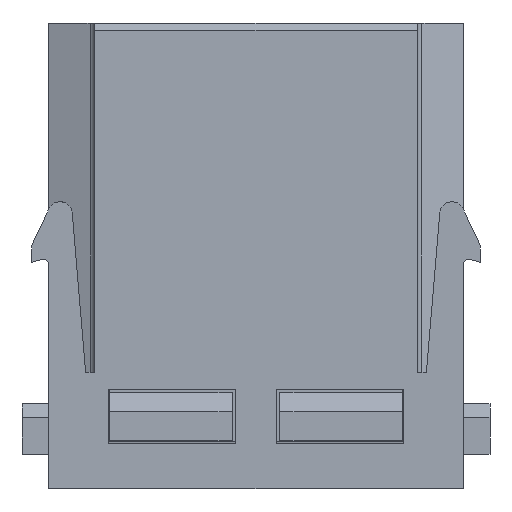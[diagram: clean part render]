
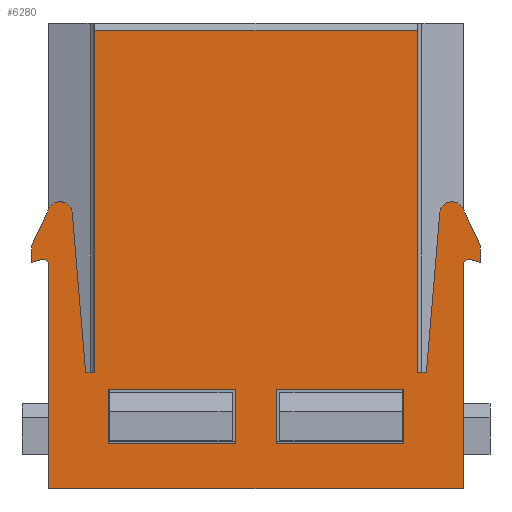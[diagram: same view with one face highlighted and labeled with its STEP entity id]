
A CAD part, left-side view. The second image highlights one B-rep face of the part: STEP entity #6280.
In plain terms, the highlighted planar face has unit normal (-1, 0, 0).
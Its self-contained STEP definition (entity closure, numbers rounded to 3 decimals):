
#6280=ADVANCED_FACE('',(#10816,#10817,#10818),#7026,.T.);
#7026=PLANE('',#22206);
#7735=LINE('',#28352,#9179);
#7739=LINE('',#28361,#9183);
#7742=LINE('',#28367,#9186);
#7751=LINE('',#28413,#9195);
#7756=LINE('',#28426,#9200);
#8098=LINE('',#29683,#9542);
#8102=LINE('',#29692,#9546);
#8105=LINE('',#29698,#9549);
#8110=LINE('',#29705,#9554);
#8112=LINE('',#29710,#9556);
#8116=LINE('',#29719,#9560);
#8123=LINE('',#29731,#9567);
#8126=LINE('',#29736,#9570);
#8160=LINE('',#29800,#9604);
#8168=LINE('',#29823,#9612);
#8171=LINE('',#29829,#9615);
#8174=LINE('',#29835,#9618);
#8177=LINE('',#29859,#9621);
#8179=LINE('',#29863,#9623);
#8180=LINE('',#29866,#9624);
#8181=LINE('',#29868,#9625);
#8182=LINE('',#29871,#9626);
#8183=LINE('',#29872,#9627);
#8184=LINE('',#29873,#9628);
#9179=VECTOR('',#23340,1.);
#9183=VECTOR('',#23346,1.);
#9186=VECTOR('',#23351,1.);
#9195=VECTOR('',#23372,1.);
#9200=VECTOR('',#23381,1.);
#9542=VECTOR('',#24759,1.);
#9546=VECTOR('',#24765,1.);
#9549=VECTOR('',#24770,1.);
#9554=VECTOR('',#24777,1.);
#9556=VECTOR('',#24781,1.);
#9560=VECTOR('',#24787,1.);
#9567=VECTOR('',#24798,1.);
#9570=VECTOR('',#24803,1.);
#9604=VECTOR('',#24867,1.);
#9612=VECTOR('',#24879,1.);
#9615=VECTOR('',#24884,1.);
#9618=VECTOR('',#24889,1.);
#9621=VECTOR('',#24902,1.);
#9623=VECTOR('',#24906,1.);
#9624=VECTOR('',#24907,1.);
#9625=VECTOR('',#24908,1.);
#9626=VECTOR('',#24911,1.);
#9627=VECTOR('',#24912,1.);
#9628=VECTOR('',#24913,1.);
#10816=FACE_BOUND('',#11503,.T.);
#10817=FACE_BOUND('',#11504,.T.);
#10818=FACE_BOUND('',#11505,.T.);
#11503=EDGE_LOOP('',(#13795,#13796,#13797,#13798));
#11504=EDGE_LOOP('',(#13799,#13800,#13801,#13802));
#11505=EDGE_LOOP('',(#13803,#13804,#13805,#13806,#13807,#13808,#13809,#13810,
#13811,#13812,#13813,#13814,#13815,#13816,#13817,#13818,#13819,#13820,#13821,
#13822));
#13795=ORIENTED_EDGE('',*,*,#18871,.T.);
#13796=ORIENTED_EDGE('',*,*,#18874,.T.);
#13797=ORIENTED_EDGE('',*,*,#18860,.T.);
#13798=ORIENTED_EDGE('',*,*,#18864,.T.);
#13799=ORIENTED_EDGE('',*,*,#18850,.T.);
#13800=ORIENTED_EDGE('',*,*,#18853,.T.);
#13801=ORIENTED_EDGE('',*,*,#18858,.T.);
#13802=ORIENTED_EDGE('',*,*,#18846,.T.);
#13803=ORIENTED_EDGE('',*,*,#18933,.T.);
#13804=ORIENTED_EDGE('',*,*,#18934,.T.);
#13805=ORIENTED_EDGE('',*,*,#18935,.T.);
#13806=ORIENTED_EDGE('',*,*,#18931,.T.);
#13807=ORIENTED_EDGE('',*,*,#18925,.T.);
#13808=ORIENTED_EDGE('',*,*,#18923,.T.);
#13809=ORIENTED_EDGE('',*,*,#18920,.T.);
#13810=ORIENTED_EDGE('',*,*,#18917,.T.);
#13811=ORIENTED_EDGE('',*,*,#18936,.T.);
#13812=ORIENTED_EDGE('',*,*,#18937,.T.);
#13813=ORIENTED_EDGE('',*,*,#18908,.F.);
#13814=ORIENTED_EDGE('',*,*,#18938,.F.);
#13815=ORIENTED_EDGE('',*,*,#18286,.T.);
#13816=ORIENTED_EDGE('',*,*,#18253,.T.);
#13817=ORIENTED_EDGE('',*,*,#18257,.T.);
#13818=ORIENTED_EDGE('',*,*,#18260,.T.);
#13819=ORIENTED_EDGE('',*,*,#18270,.T.);
#13820=ORIENTED_EDGE('',*,*,#18275,.T.);
#13821=ORIENTED_EDGE('',*,*,#18281,.T.);
#13822=ORIENTED_EDGE('',*,*,#18939,.T.);
#16769=VERTEX_POINT('',#28353);
#16770=VERTEX_POINT('',#28354);
#16773=VERTEX_POINT('',#28362);
#16775=VERTEX_POINT('',#28368);
#16783=VERTEX_POINT('',#28400);
#16785=VERTEX_POINT('',#28412);
#16791=VERTEX_POINT('',#28425);
#16793=VERTEX_POINT('',#28439);
#17183=VERTEX_POINT('',#29681);
#17185=VERTEX_POINT('',#29684);
#17187=VERTEX_POINT('',#29690);
#17190=VERTEX_POINT('',#29697);
#17193=VERTEX_POINT('',#29709);
#17194=VERTEX_POINT('',#29711);
#17196=VERTEX_POINT('',#29717);
#17200=VERTEX_POINT('',#29730);
#17216=VERTEX_POINT('',#29799);
#17217=VERTEX_POINT('',#29801);
#17223=VERTEX_POINT('',#29818);
#17225=VERTEX_POINT('',#29822);
#17227=VERTEX_POINT('',#29827);
#17229=VERTEX_POINT('',#29833);
#17231=VERTEX_POINT('',#29840);
#17234=VERTEX_POINT('',#29860);
#17235=VERTEX_POINT('',#29864);
#17236=VERTEX_POINT('',#29865);
#17237=VERTEX_POINT('',#29867);
#17238=VERTEX_POINT('',#29870);
#18253=EDGE_CURVE('',#16769,#16770,#7735,.T.);
#18257=EDGE_CURVE('',#16770,#16773,#7739,.T.);
#18260=EDGE_CURVE('',#16773,#16775,#7742,.T.);
#18270=EDGE_CURVE('',#16775,#16783,#20215,.T.);
#18275=EDGE_CURVE('',#16783,#16785,#7751,.T.);
#18281=EDGE_CURVE('',#16785,#16791,#7756,.T.);
#18286=EDGE_CURVE('',#16793,#16769,#20219,.T.);
#18846=EDGE_CURVE('',#17185,#17183,#8098,.T.);
#18850=EDGE_CURVE('',#17183,#17187,#8102,.T.);
#18853=EDGE_CURVE('',#17187,#17190,#8105,.T.);
#18858=EDGE_CURVE('',#17190,#17185,#8110,.T.);
#18860=EDGE_CURVE('',#17194,#17193,#8112,.T.);
#18864=EDGE_CURVE('',#17193,#17196,#8116,.T.);
#18871=EDGE_CURVE('',#17196,#17200,#8123,.T.);
#18874=EDGE_CURVE('',#17200,#17194,#8126,.T.);
#18908=EDGE_CURVE('',#17216,#17217,#8160,.T.);
#18917=EDGE_CURVE('',#17223,#17225,#8168,.T.);
#18920=EDGE_CURVE('',#17227,#17223,#8171,.T.);
#18923=EDGE_CURVE('',#17229,#17227,#8174,.T.);
#18925=EDGE_CURVE('',#17231,#17229,#20441,.T.);
#18931=EDGE_CURVE('',#17234,#17231,#8177,.T.);
#18933=EDGE_CURVE('',#17235,#17236,#8179,.T.);
#18934=EDGE_CURVE('',#17236,#17237,#8180,.T.);
#18935=EDGE_CURVE('',#17237,#17234,#8181,.T.);
#18936=EDGE_CURVE('',#17225,#17238,#20442,.T.);
#18937=EDGE_CURVE('',#17238,#17217,#8182,.T.);
#18938=EDGE_CURVE('',#16793,#17216,#8183,.T.);
#18939=EDGE_CURVE('',#16791,#17235,#8184,.T.);
#20215=CIRCLE('',#21648,0.9);
#20219=CIRCLE('',#21658,0.4);
#20441=CIRCLE('',#22201,0.9);
#20442=CIRCLE('',#22205,0.4);
#21648=AXIS2_PLACEMENT_3D('',#28401,#23362,#23363);
#21658=AXIS2_PLACEMENT_3D('',#28438,#23392,#23393);
#22201=AXIS2_PLACEMENT_3D('',#29839,#24894,#24895);
#22205=AXIS2_PLACEMENT_3D('',#29869,#24909,#24910);
#22206=AXIS2_PLACEMENT_3D('',#29874,#24914,#24915);
#23340=DIRECTION('',(0.,-0.966,-0.259));
#23346=DIRECTION('',(0.,0.,1.));
#23351=DIRECTION('',(0.,0.423,0.906));
#23362=DIRECTION('',(-1.,0.,0.));
#23363=DIRECTION('',(0.,-0.906,0.423));
#23372=DIRECTION('',(0.,0.084,-0.996));
#23381=DIRECTION('',(0.,1.,0.));
#23392=DIRECTION('',(1.,0.,0.));
#23393=DIRECTION('',(0.,1.,0.));
#24759=DIRECTION('',(0.,-1.,0.));
#24765=DIRECTION('',(0.,0.,-1.));
#24770=DIRECTION('',(0.,1.,0.));
#24777=DIRECTION('',(0.,0.,1.));
#24781=DIRECTION('',(0.,1.,0.));
#24787=DIRECTION('',(0.,0.,1.));
#24798=DIRECTION('',(0.,-1.,0.));
#24803=DIRECTION('',(0.,0.,-1.));
#24867=DIRECTION('',(0.,1.,0.));
#24879=DIRECTION('',(0.,-0.966,0.259));
#24884=DIRECTION('',(0.,0.,-1.));
#24889=DIRECTION('',(0.,0.423,-0.906));
#24894=DIRECTION('',(-1.,0.,0.));
#24895=DIRECTION('',(0.,-0.996,0.084));
#24902=DIRECTION('',(0.,0.084,0.996));
#24906=DIRECTION('',(0.,1.,0.));
#24907=DIRECTION('',(0.,0.,-1.));
#24908=DIRECTION('',(0.,1.,0.));
#24909=DIRECTION('',(1.,0.,0.));
#24910=DIRECTION('',(0.,0.259,0.966));
#24911=DIRECTION('',(0.,0.,-1.));
#24912=DIRECTION('',(0.,0.,-1.));
#24913=DIRECTION('',(0.,0.,1.));
#24914=DIRECTION('',(-1.,0.,0.));
#24915=DIRECTION('',(0.,-1.,0.));
#28352=CARTESIAN_POINT('',(-7.3,-15.654,14.236));
#28353=CARTESIAN_POINT('',(-7.3,-15.654,14.236));
#28354=CARTESIAN_POINT('',(-7.3,-16.4,14.036));
#28361=CARTESIAN_POINT('',(-7.3,-16.4,14.036));
#28362=CARTESIAN_POINT('',(-7.3,-16.4,15.236));
#28367=CARTESIAN_POINT('',(-7.3,-16.4,15.236));
#28368=CARTESIAN_POINT('',(-7.3,-15.139,17.94));
#28400=CARTESIAN_POINT('',(-7.3,-13.427,17.634));
#28401=CARTESIAN_POINT('',(-7.3,-14.324,17.559));
#28412=CARTESIAN_POINT('',(-7.3,-12.45,6.));
#28413=CARTESIAN_POINT('',(-7.3,-13.427,17.634));
#28425=CARTESIAN_POINT('',(-7.3,-11.8,6.));
#28426=CARTESIAN_POINT('',(-7.3,-12.45,6.));
#28438=CARTESIAN_POINT('',(-7.3,-15.55,13.85));
#28439=CARTESIAN_POINT('',(-7.3,-15.15,13.85));
#29681=CARTESIAN_POINT('',(-7.3,1.5,4.75));
#29683=CARTESIAN_POINT('',(-7.3,10.8,4.75));
#29684=CARTESIAN_POINT('',(-7.3,10.8,4.75));
#29690=CARTESIAN_POINT('',(-7.3,1.5,0.8));
#29692=CARTESIAN_POINT('',(-7.3,1.5,4.75));
#29697=CARTESIAN_POINT('',(-7.3,10.8,0.8));
#29698=CARTESIAN_POINT('',(-7.3,1.5,0.8));
#29705=CARTESIAN_POINT('',(-7.3,10.8,0.8));
#29709=CARTESIAN_POINT('',(-7.3,-1.5,0.8));
#29710=CARTESIAN_POINT('',(-7.3,-10.8,0.8));
#29711=CARTESIAN_POINT('',(-7.3,-10.8,0.8));
#29717=CARTESIAN_POINT('',(-7.3,-1.5,4.75));
#29719=CARTESIAN_POINT('',(-7.3,-1.5,0.8));
#29730=CARTESIAN_POINT('',(-7.3,-10.8,4.75));
#29731=CARTESIAN_POINT('',(-7.3,-1.5,4.75));
#29736=CARTESIAN_POINT('',(-7.3,-10.8,4.75));
#29799=CARTESIAN_POINT('',(-7.3,-15.15,-2.5));
#29800=CARTESIAN_POINT('',(-7.3,-15.15,-2.5));
#29801=CARTESIAN_POINT('',(-7.3,15.15,-2.5));
#29818=CARTESIAN_POINT('',(-7.3,16.4,14.036));
#29822=CARTESIAN_POINT('',(-7.3,15.654,14.236));
#29823=CARTESIAN_POINT('',(-7.3,16.4,14.036));
#29827=CARTESIAN_POINT('',(-7.3,16.4,15.236));
#29829=CARTESIAN_POINT('',(-7.3,16.4,15.236));
#29833=CARTESIAN_POINT('',(-7.3,15.139,17.94));
#29835=CARTESIAN_POINT('',(-7.3,15.139,17.94));
#29839=CARTESIAN_POINT('',(-7.3,14.324,17.559));
#29840=CARTESIAN_POINT('',(-7.3,13.427,17.634));
#29859=CARTESIAN_POINT('',(-7.3,12.45,6.));
#29860=CARTESIAN_POINT('',(-7.3,12.45,6.));
#29863=CARTESIAN_POINT('',(-7.3,-11.8,31.));
#29864=CARTESIAN_POINT('',(-7.3,-11.8,31.));
#29865=CARTESIAN_POINT('',(-7.3,11.8,31.));
#29866=CARTESIAN_POINT('',(-7.3,11.8,31.));
#29867=CARTESIAN_POINT('',(-7.3,11.8,6.));
#29868=CARTESIAN_POINT('',(-7.3,11.8,6.));
#29869=CARTESIAN_POINT('',(-7.3,15.55,13.85));
#29870=CARTESIAN_POINT('',(-7.3,15.15,13.85));
#29871=CARTESIAN_POINT('',(-7.3,15.15,13.85));
#29872=CARTESIAN_POINT('',(-7.3,-15.15,13.85));
#29873=CARTESIAN_POINT('',(-7.3,-11.8,6.));
#29874=CARTESIAN_POINT('',(-7.3,16.599,-2.6));
